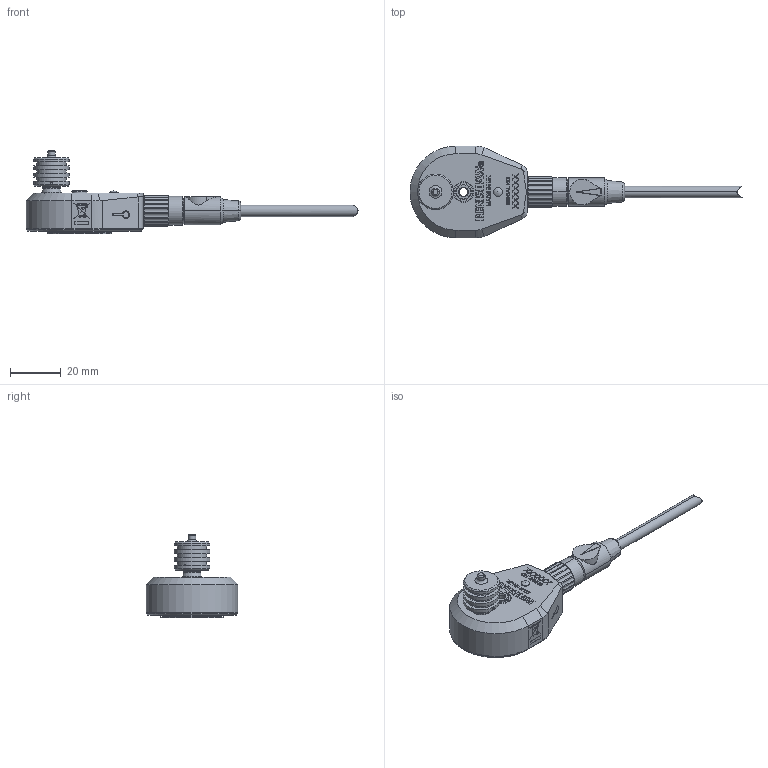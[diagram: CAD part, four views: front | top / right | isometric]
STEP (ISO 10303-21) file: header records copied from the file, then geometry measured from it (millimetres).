
FILE_DESCRIPTION(/* description */ (''),/* implementation_level */ '2;1');
FILE_NAME(/* name */ 'LA_9908_0875_A AIR TEMP SENSOR.stp',/* time_stamp */ '2010-01-27T11:33:54+00:00',/* author */ (''),/* organization */ (''),/* preprocessor_version */ 'ST-DEVELOPER v11',/* originating_system */ 'SIEMENS UGS NX 6.0',/* authorisation */ '');
FILE_SCHEMA (('AUTOMOTIVE_DESIGN { 1 0 10303 214 1 1 1 1 }'));
Length unit declared in the file: millimetre
Products named in the file (1): ad1321CAwc0o
Bounding box: 130.25 x 36 x 32.8 mm (x, y, z)
Volume: 25677.2 mm3; surface area: 9389.3 mm2
Topology: 3 solids, 4 shells, 1014 faces, 2717 edges, 1796 vertices
Faces by surface type: plane 623, extrusion 168, cylinder 166, cone 40, torus 7, sphere 7, bspline 3
Full cylindrical faces by diameter (mm): 0.304 x1, 0.668 x1, 0.8 x2, 0.815 x2, 1 x2, 1.8 x1, 2.2 x1, 2.8 x1, 3 x2, 3.4 x1, 3.425 x1, 6.1 x1, 6.8 x1, 7.502 x1, 8 x1, 8.6 x1, 9 x1, 11.4 x3, 12 x1, 12.5 x1, 14 x4, 23 x1, 25 x1
Entity records: 42953 total; most frequent: CARTESIAN_POINT 11981, ORIENTED_EDGE 5266, DIRECTION 4081, EDGE_CURVE 2633, VECTOR 1795, VERTEX_POINT 1770, LINE 1627, EDGE_LOOP 1171
